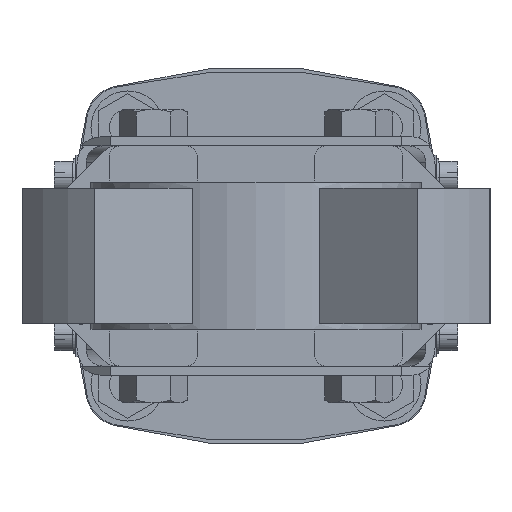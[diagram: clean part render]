
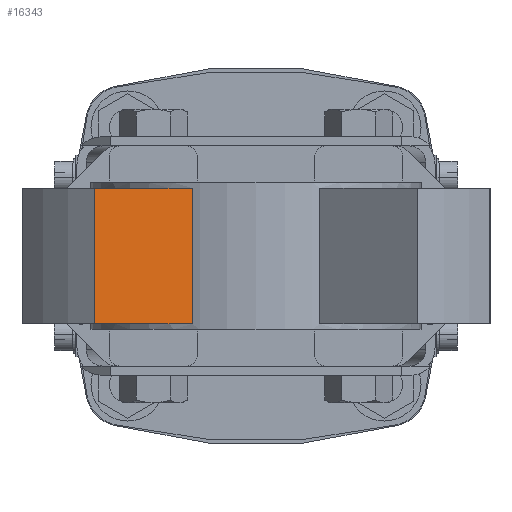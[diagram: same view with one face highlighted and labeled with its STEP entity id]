
A CAD part, front view. The second image highlights one B-rep face of the part: STEP entity #16343.
In plain terms, the highlighted planar face has unit normal (0.643, -0.766, 0).
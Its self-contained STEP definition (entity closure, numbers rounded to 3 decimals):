
#3276 = DIRECTION ( 'NONE',  ( -0.766, -0.643, 0. ) ) ;
#3277 = DIRECTION ( 'NONE',  ( -0.643, 0.766, 0. ) ) ;
#3322 = DIRECTION ( 'NONE',  ( 0., 0., -1. ) ) ;
#3323 = VECTOR ( 'NONE', #3322, 1000. ) ;
#3324 = CARTESIAN_POINT ( 'NONE',  ( -17.417, -41.493, 18.5 ) ) ;
#3325 = LINE ( 'NONE', #3324, #3323 ) ;
#3328 = CARTESIAN_POINT ( 'NONE',  ( -17.417, -41.493, -18.5 ) ) ;
#3364 = CARTESIAN_POINT ( 'NONE',  ( -44., -63.799, -18.5 ) ) ;
#3415 = DIRECTION ( 'NONE',  ( 0.766, 0.643, 0. ) ) ;
#3416 = VECTOR ( 'NONE', #3415, 1000. ) ;
#3417 = CARTESIAN_POINT ( 'NONE',  ( -17.417, -41.493, -18.5 ) ) ;
#3418 = LINE ( 'NONE', #3417, #3416 ) ;
#3419 = CARTESIAN_POINT ( 'NONE',  ( -17.417, -41.493, 18.5 ) ) ;
#3420 = DIRECTION ( 'NONE',  ( 0.766, 0.643, 0. ) ) ;
#3421 = VECTOR ( 'NONE', #3420, 1000. ) ;
#3422 = CARTESIAN_POINT ( 'NONE',  ( -17.417, -41.493, 18.5 ) ) ;
#3423 = LINE ( 'NONE', #3422, #3421 ) ;
#3424 = CARTESIAN_POINT ( 'NONE',  ( -44., -63.799, 18.5 ) ) ;
#3435 = PLANE ( 'NONE',  #3437 ) ;
#3436 = CARTESIAN_POINT ( 'NONE',  ( -17.417, -41.493, 18.5 ) ) ;
#3437 = AXIS2_PLACEMENT_3D ( 'NONE', #3436, #3277, #3276 ) ;
#3438 = FACE_OUTER_BOUND ( 'NONE', #16344, .T. ) ;
#3547 = DIRECTION ( 'NONE',  ( 0., 0., -1. ) ) ;
#3548 = VECTOR ( 'NONE', #3547, 1000. ) ;
#3549 = CARTESIAN_POINT ( 'NONE',  ( -44., -63.799, 18.5 ) ) ;
#3664 = LINE ( 'NONE', #3549, #3548 ) ;
#16320 = VERTEX_POINT ( 'NONE', #3364 ) ;
#16343 = ADVANCED_FACE ( 'NONE', ( #3438 ), #3435, .F. ) ;
#16344 = EDGE_LOOP ( 'NONE', ( #16398, #16399, #16393, #16394 ) ) ;
#16374 = VERTEX_POINT ( 'NONE', #3328 ) ;
#16384 = EDGE_CURVE ( 'NONE', #16404, #16374, #3325, .T. ) ;
#16393 = ORIENTED_EDGE ( 'NONE', *, *, #16403, .F. ) ;
#16394 = ORIENTED_EDGE ( 'NONE', *, *, #16465, .T. ) ;
#16398 = ORIENTED_EDGE ( 'NONE', *, *, #16406, .T. ) ;
#16399 = ORIENTED_EDGE ( 'NONE', *, *, #16384, .F. ) ;
#16400 = VERTEX_POINT ( 'NONE', #3424 ) ;
#16403 = EDGE_CURVE ( 'NONE', #16400, #16404, #3423, .T. ) ;
#16404 = VERTEX_POINT ( 'NONE', #3419 ) ;
#16406 = EDGE_CURVE ( 'NONE', #16320, #16374, #3418, .T. ) ;
#16465 = EDGE_CURVE ( 'NONE', #16400, #16320, #3664, .T. ) ;
